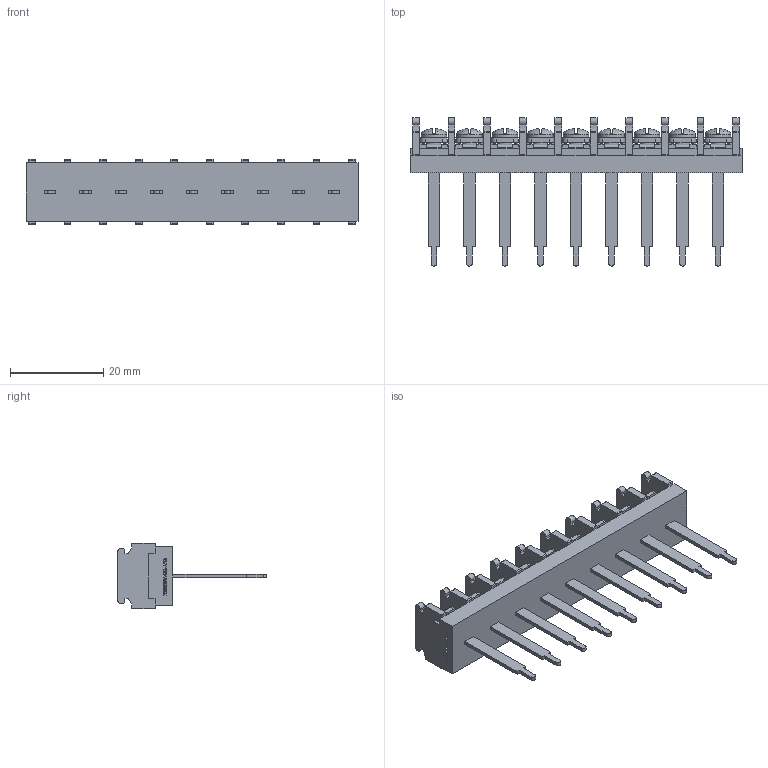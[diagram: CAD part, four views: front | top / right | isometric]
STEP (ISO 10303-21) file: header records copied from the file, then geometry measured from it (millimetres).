
FILE_DESCRIPTION(/* description */ ('Alibre Inc.'),/* implementation_level */ '2;1');
FILE_NAME(/* name */ 'export0',/* time_stamp */ '2015-10-26T16:08:22+09:00',/* author */ (''),/* organization */ (''),/* preprocessor_version */ 'ST-DEVELOPER v14',/* originating_system */ 'Alibre',/* authorisation */ '');
FILE_SCHEMA (('CONFIG_CONTROL_DESIGN'));
Length unit declared in the file: centimetre
Products named in the file (1): ID_1
Bounding box: 71.2 x 31.8 x 14 mm (x, y, z)
Volume: 7021.4 mm3; surface area: 7369.2 mm2
Topology: 1 solids, 1 shells, 1446 faces, 3974 edges, 2606 vertices
Faces by surface type: plane 1129, cylinder 141, bspline 104, cone 36, torus 18, sphere 18
Full cylindrical faces by diameter (mm): 3 x9, 5.5 x9
Entity records: 43465 total; most frequent: CARTESIAN_POINT 9216, ORIENTED_EDGE 7840, DIRECTION 5471, EDGE_CURVE 3920, VECTOR 2872, LINE 2872, VERTEX_POINT 2588, AXIS2_PLACEMENT_3D 1824
